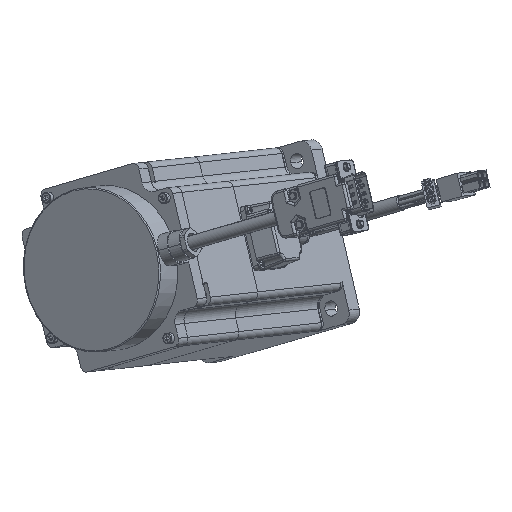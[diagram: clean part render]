
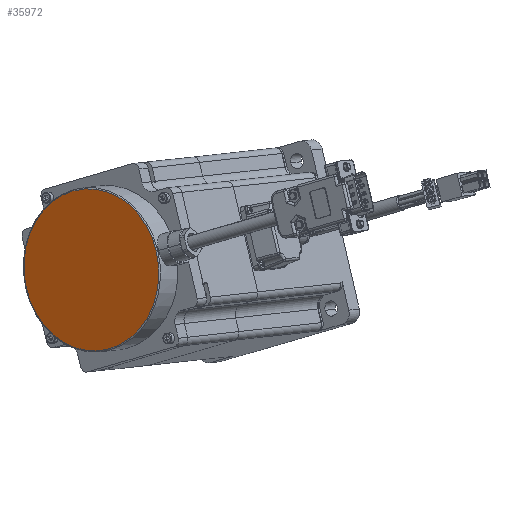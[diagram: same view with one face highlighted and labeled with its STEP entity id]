
A CAD part, top view. The second image highlights one B-rep face of the part: STEP entity #35972.
In plain terms, the highlighted planar face has unit normal (-0.558, -0.062, 0.828) as drawn and (0, 0, 1) by its records, which use the part's own axes.
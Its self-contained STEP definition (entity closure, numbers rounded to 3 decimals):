
#2526 = DIRECTION ( 'NONE',  ( 0., 0., 1. ) ) ;
#3009 = CARTESIAN_POINT ( 'NONE',  ( 0., 0., 21. ) ) ;
#4074 = DIRECTION ( 'NONE',  ( 0., 0., 1. ) ) ;
#5645 = VERTEX_POINT ( 'NONE', #7226 ) ;
#6914 = PLANE ( 'NONE',  #57122 ) ;
#7226 = CARTESIAN_POINT ( 'NONE',  ( -34.5, 0., 21. ) ) ;
#11279 = ORIENTED_EDGE ( 'NONE', *, *, #32144, .T. ) ;
#13009 = CIRCLE ( 'NONE', #20938, 34.5 ) ;
#14280 = ORIENTED_EDGE ( 'NONE', *, *, #45117, .T. ) ;
#17130 = CARTESIAN_POINT ( 'NONE',  ( 0., 0., 21. ) ) ;
#20938 = AXIS2_PLACEMENT_3D ( 'NONE', #3009, #32123, #55726 ) ;
#25787 = DIRECTION ( 'NONE',  ( 1., 0., 0. ) ) ;
#32123 = DIRECTION ( 'NONE',  ( 0., 0., 1. ) ) ;
#32144 = EDGE_CURVE ( 'NONE', #5645, #51727, #43741, .T. ) ;
#35411 = CARTESIAN_POINT ( 'NONE',  ( 0., 0., 21. ) ) ;
#35733 = DIRECTION ( 'NONE',  ( 1., 0., 0. ) ) ;
#35972 = ADVANCED_FACE ( 'NONE', ( #49417 ), #6914, .T. ) ;
#43741 = CIRCLE ( 'NONE', #49744, 34.5 ) ;
#44045 = EDGE_LOOP ( 'NONE', ( #14280, #11279 ) ) ;
#45117 = EDGE_CURVE ( 'NONE', #51727, #5645, #13009, .T. ) ;
#49417 = FACE_OUTER_BOUND ( 'NONE', #44045, .T. ) ;
#49744 = AXIS2_PLACEMENT_3D ( 'NONE', #17130, #4074, #35733 ) ;
#51727 = VERTEX_POINT ( 'NONE', #58122 ) ;
#55726 = DIRECTION ( 'NONE',  ( 1., 0., 0. ) ) ;
#57122 = AXIS2_PLACEMENT_3D ( 'NONE', #35411, #2526, #25787 ) ;
#58122 = CARTESIAN_POINT ( 'NONE',  ( 34.5, 0., 21. ) ) ;
